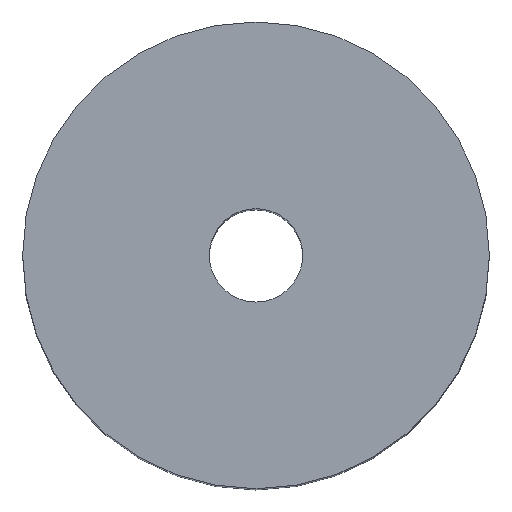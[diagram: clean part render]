
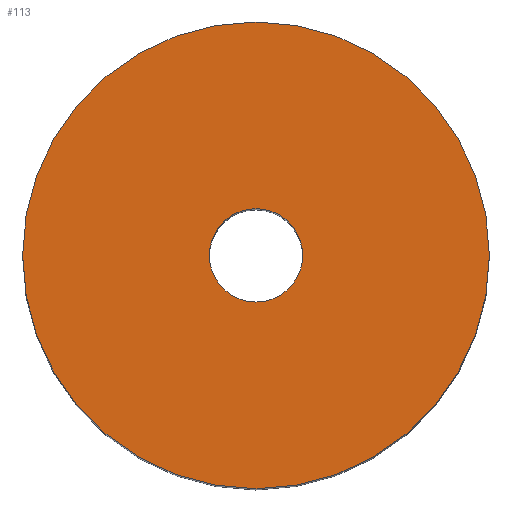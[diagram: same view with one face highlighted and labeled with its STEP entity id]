
A CAD part, top view. The second image highlights one B-rep face of the part: STEP entity #113.
In plain terms, the highlighted planar face has unit normal (0, 0, 1).
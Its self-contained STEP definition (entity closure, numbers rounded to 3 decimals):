
#113=ADVANCED_FACE('',(#121,#122),#119,.T.);
#119=PLANE('',#190);
#121=FACE_BOUND('',#125,.T.);
#122=FACE_BOUND('',#126,.T.);
#125=EDGE_LOOP('',(#133,#134));
#126=EDGE_LOOP('',(#135,#136));
#133=ORIENTED_EDGE('',*,*,#165,.T.);
#134=ORIENTED_EDGE('',*,*,#166,.T.);
#135=ORIENTED_EDGE('',*,*,#167,.F.);
#136=ORIENTED_EDGE('',*,*,#168,.F.);
#157=VERTEX_POINT('',#236);
#158=VERTEX_POINT('',#237);
#159=VERTEX_POINT('',#240);
#160=VERTEX_POINT('',#241);
#165=EDGE_CURVE('',#157,#158,#177,.T.);
#166=EDGE_CURVE('',#158,#157,#178,.T.);
#167=EDGE_CURVE('',#159,#160,#179,.T.);
#168=EDGE_CURVE('',#160,#159,#180,.T.);
#177=CIRCLE('',#186,55.);
#178=CIRCLE('',#187,55.);
#179=CIRCLE('',#188,11.);
#180=CIRCLE('',#189,11.);
#186=AXIS2_PLACEMENT_3D('',#235,#202,#203);
#187=AXIS2_PLACEMENT_3D('',#238,#204,#205);
#188=AXIS2_PLACEMENT_3D('',#239,#206,#207);
#189=AXIS2_PLACEMENT_3D('',#242,#208,#209);
#190=AXIS2_PLACEMENT_3D('',#243,#210,#211);
#202=DIRECTION('',(0.,0.,1.));
#203=DIRECTION('',(0.,1.,0.));
#204=DIRECTION('',(0.,0.,1.));
#205=DIRECTION('',(0.,-1.,0.));
#206=DIRECTION('',(0.,0.,1.));
#207=DIRECTION('',(0.,-1.,0.));
#208=DIRECTION('',(0.,0.,1.));
#209=DIRECTION('',(0.,1.,0.));
#210=DIRECTION('',(0.,0.,1.));
#211=DIRECTION('',(0.,1.,0.));
#235=CARTESIAN_POINT('',(0.,0.,170.));
#236=CARTESIAN_POINT('',(-55.,0.,170.));
#237=CARTESIAN_POINT('',(55.,0.,170.));
#238=CARTESIAN_POINT('',(0.,0.,170.));
#239=CARTESIAN_POINT('',(0.,0.,170.));
#240=CARTESIAN_POINT('',(11.,0.,170.));
#241=CARTESIAN_POINT('',(-11.,0.,170.));
#242=CARTESIAN_POINT('',(0.,0.,170.));
#243=CARTESIAN_POINT('',(0.,0.,170.));
